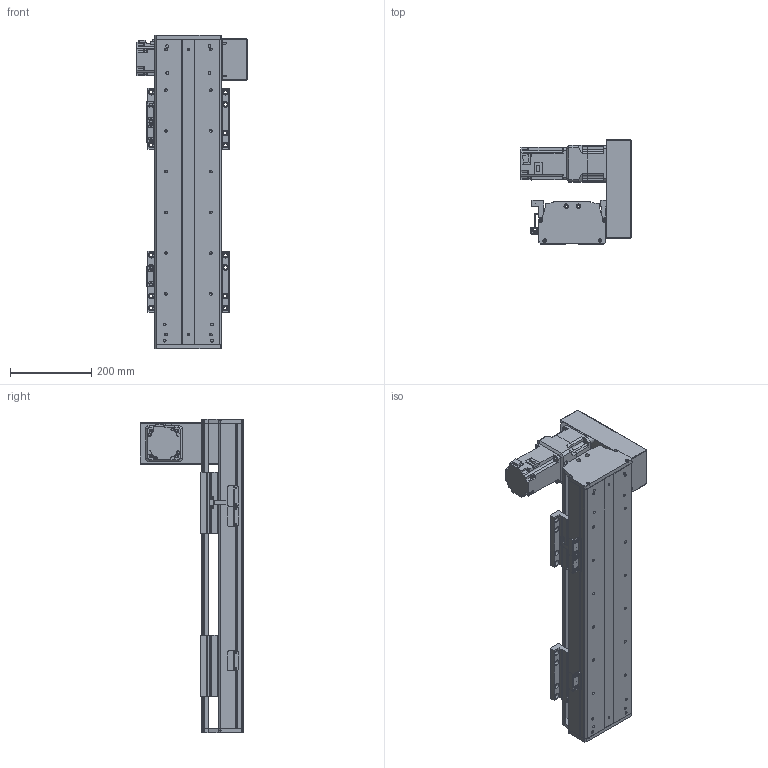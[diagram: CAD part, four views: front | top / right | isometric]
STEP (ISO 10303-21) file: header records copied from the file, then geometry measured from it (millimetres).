
FILE_DESCRIPTION(/* description */ (''),/* implementation_level */ '2;1');
FILE_NAME(/* name */ 'C:\Users\PC\Desktop\3D도면\STEP\새 폴더\DSB165-UR7G-W0400-L.stp',/* time_stamp */ '2018-06-25T15:13:22+09:00',/* author */ ('PC'),/* organization */ (''),/* preprocessor_version */ 'ST-DEVELOPER v16.5',/* originating_system */ 'Autodesk Inventor 2017',/* authorisation */ '');
FILE_SCHEMA (('AUTOMOTIVE_DESIGN { 1 0 10303 214 3 1 1 }'));
Length unit declared in the file: millimetre
Products named in the file (12): DSB165-UL7G-W0400-R_MIR; DSB165-BASE-L_MIR; hg-kr73__MIR; ab0901-p0401300102_MIR; 11-DSB165 BELT COVER_MIR; 12-DSB165-REAR COVER_MIR; 14-DSB165-FRONT COVER_MIR; DSB165-UP COVER_MIR; DSR165-SENSOR DOG_MIR; pm-y65_step_MIR; SENSOR BRACKET(EE-SX674A)_MIR; DSB165-TABLE(MSB20S)_MIR
Assembly tree (16 placements, depth 2):
  DSB165-UL7G-W0400-R_MIR
    DSB165-BASE-L_MIR
    hg-kr73__MIR
    ab0901-p0401300102_MIR
    11-DSB165 BELT COVER_MIR
    12-DSB165-REAR COVER_MIR
    14-DSB165-FRONT COVER_MIR
    DSB165-UP COVER_MIR
    DSR165-SENSOR DOG_MIR
    pm-y65_step_MIR  x3
    SENSOR BRACKET(EE-SX674A)_MIR  x3
    DSB165-TABLE(MSB20S)_MIR  x2
Bounding box: 270 x 254 x 770 mm (x, y, z)
Volume: 6125301.1 mm3; surface area: 1400956 mm2
Topology: 17 solids, 17 shells, 1637 faces, 4406 edges, 2908 vertices
Faces by surface type: plane 921, cylinder 604, cone 100, sphere 8, torus 4
Full cylindrical faces by diameter (mm): 2.459 x20, 3.5 x6, 4.134 x38, 4.5 x18, 5 x27, 5.5 x36, 5.9 x4, 6 x4, 6.6 x14, 6.647 x32, 6.8 x1, 7 x4, 7.6 x4, 8.4 x1, 8.5 x24, 8.7 x1, 9.5 x32, 11 x6, 14 x16, 19 x1, 22 x1, 24 x1, 25 x1, 28 x1, 67 x1, 70 x2, 80 x1
Entity records: 35500 total; most frequent: DIRECTION 6138, CARTESIAN_POINT 5979, ORIENTED_EDGE 5474, EDGE_CURVE 2737, AXIS2_PLACEMENT_3D 2239, VERTEX_POINT 1942, EDGE_LOOP 1671, LINE 1660
